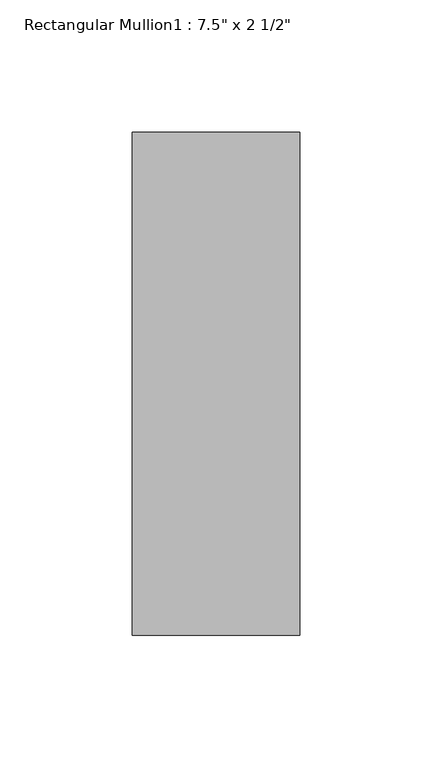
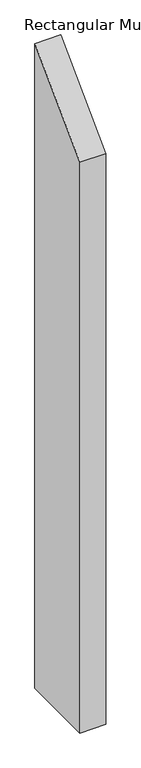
"""IFC4 building model written with IfcOpenShell, lengths in millimetres: member geometry."""

import ifcopenshell
import ifcopenshell.guid

model = None  # the IFC model being written
_history = None  # IfcOwnerHistory: only IFC2X3 demands one
_inside = {}  # id of a spatial element -> (the spatial element, [elements in it])
_under = {}  # id of a project, library or spatial element -> (it, [spatial elements below it])
_declared = {}  # id of a project -> (the project, [libraries it declares])
_typed = {}  # id of a type object -> (the type object, [elements of that type])
_made_of = {}  # id of a material, layer set ... -> (it, [elements and type objects made of it])


def new_model(schema):
    """Start an empty IFC model of exactly this schema.

    Asked for "IFC4X3", IfcOpenShell would pick the latest addendum, in which some entities
    have other attributes; the version numbers below select the first issue.
    IFC2X3 requires an IfcOwnerHistory on every rooted entity: one is made here for all.
    """
    global model, _history
    if schema == "IFC4X3":
        model = ifcopenshell.file(schema_version=(4, 3, 0, 0))
    else:
        model = ifcopenshell.file(schema=schema)
    _inside.clear()
    _under.clear()
    _declared.clear()
    _typed.clear()
    _made_of.clear()
    _history = None
    if model.schema == "IFC2X3":
        org = make("IfcOrganization", Name="unknown")
        user = make(
            "IfcPersonAndOrganization",
            ThePerson=make("IfcPerson", FamilyName="unknown"),
            TheOrganization=org,
        )
        app = make(
            "IfcApplication",
            ApplicationDeveloper=org,
            Version="unknown",
            ApplicationFullName="unknown",
            ApplicationIdentifier="unknown",
        )
        _history = make(
            "IfcOwnerHistory",
            OwningUser=user,
            OwningApplication=app,
            ChangeAction="ADDED",
            CreationDate=0,
        )
    return model


def make(cls, **values):
    """One entity of the class cls with the attributes given. An attribute that is None is left unset."""
    return model.create_entity(
        cls, **{name: value for name, value in values.items() if value is not None}
    )


def rooted(cls, **values):
    """An entity with a GlobalId (a new one), such as an element, a storey or a relation."""
    return make(cls, GlobalId=ifcopenshell.guid.new(), OwnerHistory=_history, **values)


def si_unit(unit_type, name, prefix=None):
    """IfcSIUnit, for example si_unit("LENGTHUNIT", "METRE", prefix="MILLI")."""
    return make("IfcSIUnit", UnitType=unit_type, Prefix=prefix, Name=name)


def assignment(units):
    """IfcUnitAssignment: the units of a project."""
    return None if units is None else make("IfcUnitAssignment", Units=units)


def point(xyz):
    """IfcCartesianPoint."""
    return None if xyz is None else make("IfcCartesianPoint", Coordinates=xyz)


def direction(xyz):
    """IfcDirection."""
    return None if xyz is None else make("IfcDirection", DirectionRatios=xyz)


def frame(location, z_axis=None, x_axis=None):
    """IfcAxis2Placement3D, a coordinate frame: its origin and axes. An axis left out is left unset."""
    return make(
        "IfcAxis2Placement3D",
        Location=point(location),
        Axis=direction(z_axis),
        RefDirection=direction(x_axis),
    )


def origin():
    """The frame at (0, 0, 0) with its axes left unset."""
    return frame((0.0, 0.0, 0.0))


def place(relative_to, where):
    """IfcLocalPlacement: puts the frame where relative to a parent placement (None: the world)."""
    return make(
        "IfcLocalPlacement", PlacementRelTo=relative_to, RelativePlacement=where
    )


def context(
    kind, dimensions, precision=None, world=None, true_north=None, identifier=None
):
    """IfcGeometricRepresentationContext, for example the 3D "Model" context."""
    return make(
        "IfcGeometricRepresentationContext",
        ContextIdentifier=identifier,
        ContextType=kind,
        CoordinateSpaceDimension=dimensions,
        Precision=precision,
        WorldCoordinateSystem=world,
        TrueNorth=true_north,
    )


def project(units=None, contexts=None):
    """IfcProject with its units and contexts."""
    return rooted(
        "IfcProject",
        Name="project",
        RepresentationContexts=contexts,
        UnitsInContext=assignment(units),
    )


def spatial(cls, under=None, at=None, **own):
    """A site, building, storey or space (cls), placed at a placement, below another one or the project."""
    s = rooted(cls, ObjectPlacement=at, **own)
    if under is not None:
        _under.setdefault(under.id(), (under, []))[1].append(s)
    return s


def polyline(points):
    """IfcPolyline through the points."""
    return make("IfcPolyline", Points=[point(p) for p in points])


def outline(outer, holes=None, kind="AREA"):
    """IfcArbitraryClosedProfileDef: a profile drawn as a closed curve; with holes, ...WithVoids."""
    if holes is None:
        return make("IfcArbitraryClosedProfileDef", ProfileType=kind, OuterCurve=outer)
    return make(
        "IfcArbitraryProfileDefWithVoids",
        ProfileType=kind,
        OuterCurve=outer,
        InnerCurves=holes,
    )


def extrude(swept, where, along, depth):
    """IfcExtrudedAreaSolid: the profile swept, set in the frame where, extruded along a direction by depth."""
    return make(
        "IfcExtrudedAreaSolid",
        SweptArea=swept,
        Position=where,
        ExtrudedDirection=direction(along),
        Depth=depth,
    )


def shape(context_of_items, identifier, shape_type, items):
    """IfcShapeRepresentation: the items that make up one representation, for example the "Body"."""
    return make(
        "IfcShapeRepresentation",
        ContextOfItems=context_of_items,
        RepresentationIdentifier=identifier,
        RepresentationType=shape_type,
        Items=items,
    )


def source(mapping_origin, context_of_items, identifier, shape_type, items):
    """IfcRepresentationMap: a shape defined once, which mapped items show again and again."""
    return make(
        "IfcRepresentationMap",
        MappingOrigin=mapping_origin,
        MappedRepresentation=shape(context_of_items, identifier, shape_type, items),
    )


def transform(
    local_origin,
    x_axis=None,
    y_axis=None,
    z_axis=None,
    scale=None,
    scale2=None,
    scale3=None,
    uniform=True,
):
    """IfcCartesianTransformationOperator3D, or its non-uniform kind. x_axis, y_axis, z_axis: its Axis1, 2, 3."""
    if uniform:
        return make(
            "IfcCartesianTransformationOperator3D",
            Axis1=direction(x_axis),
            Axis2=direction(y_axis),
            LocalOrigin=point(local_origin),
            Scale=scale,
            Axis3=direction(z_axis),
        )
    return make(
        "IfcCartesianTransformationOperator3DnonUniform",
        Axis1=direction(x_axis),
        Axis2=direction(y_axis),
        LocalOrigin=point(local_origin),
        Scale=scale,
        Axis3=direction(z_axis),
        Scale2=scale2,
        Scale3=scale3,
    )


def mapped(mapping_source, mapping_target):
    """IfcMappedItem: shows the shape of a source again, moved by a transform."""
    return make(
        "IfcMappedItem", MappingSource=mapping_source, MappingTarget=mapping_target
    )


def made_of(thing, what):
    """Note that an element or type object is made of a material, layer set ...; save() writes the relation."""
    if what is not None:
        _made_of.setdefault(what.id(), (what, []))[1].append(thing)
    return thing


def element(
    cls,
    number,
    at=None,
    inside=None,
    cuts=None,
    type_object=None,
    material=None,
    context=None,
    identifier="Body",
    shape_type=None,
    held_by="IfcProductDefinitionShape",
    body=None,
    shapes=None,
    **own,
):
    """One element of the class cls, such as IfcWall. Its Tag is "e" and its number.

    at: its placement. inside: the storey or other place that contains it. cuts: it is an
    opening in that element (IfcRelVoidsElement). A single representation is given by context,
    identifier, shape_type and body (its items); several are given by shapes. held_by: the class
    of the entity that holds the representations. save() writes the other relations.
    """
    e = rooted(cls, Tag="e%d" % number, ObjectPlacement=at, **own)
    if body is not None:
        shapes = [shape(context, identifier, shape_type, body)]
    if shapes is not None:
        e.Representation = make(held_by, Representations=shapes)
    if inside is not None:
        _inside.setdefault(inside.id(), (inside, []))[1].append(e)
    if cuts is not None:
        rooted(
            "IfcRelVoidsElement", RelatingBuildingElement=cuts, RelatedOpeningElement=e
        )
    if type_object is not None:
        _typed.setdefault(type_object.id(), (type_object, []))[1].append(e)
    return made_of(e, material)


def aggregate(whole, parts):
    """IfcRelAggregates: a whole, such as a stair, and the parts it consists of."""
    return rooted("IfcRelAggregates", RelatingObject=whole, RelatedObjects=parts)


def save(model, path):
    """Write the relations noted so far, then the file.

    IfcRelAggregates (storeys below a building ...), IfcRelContainedInSpatialStructure (elements
    in a storey), IfcRelDefinesByType, IfcRelAssociatesMaterial and IfcRelDeclares: one each for
    every whole, place, type object, material and project.
    """
    for whole, parts in _under.values():
        aggregate(whole, parts)
    for where, things in _inside.values():
        rooted(
            "IfcRelContainedInSpatialStructure",
            RelatedElements=things,
            RelatingStructure=where,
        )
    for kind, things in _typed.values():
        rooted("IfcRelDefinesByType", RelatedObjects=things, RelatingType=kind)
    for what, things in _made_of.values():
        rooted("IfcRelAssociatesMaterial", RelatedObjects=things, RelatingMaterial=what)
    for by, libraries in _declared.values():
        rooted("IfcRelDeclares", RelatingContext=by, RelatedDefinitions=libraries)
    model.write(path)


def member_4c6ee2a7(model_context):
    return source(origin(), model_context, "Body", "SweptSolid", [
        extrude(outline(polyline([(-165.1, -165.1), (25.4, 25.4), (25.4, -1638.3), (-165.1, -1638.3), (-165.1, -165.1)])), frame((-31.75, 0.0, 0.0), z_axis=(1.0, 0.0, 0.0), x_axis=(0.0, 1.0, 0.0)), (0.0, 0.0, 1.0), 63.5),
    ])


if __name__ == "__main__":
    model = new_model("IFC4")
    model_context = context("Model", 3, world=origin())
    ifc_project = project(units=[si_unit("LENGTHUNIT", "METRE", prefix="MILLI")], contexts=[model_context])
    site = spatial("IfcSite", under=ifc_project)
    building = spatial("IfcBuilding", under=site)
    placement = place(None, origin())
    member_shape = member_4c6ee2a7(model_context)
    element("IfcMember", 1, ObjectType="Rectangular Mullion1 : 7.5\" x 2 1/2\"", at=placement, inside=building, context=model_context, shape_type="MappedRepresentation", body=[
        mapped(member_shape, transform((0.0, 0.0, 0.0), x_axis=(1.0, 0.0, 0.0), y_axis=(0.0, 1.0, 0.0), z_axis=(0.0, 0.0, 1.0))),
    ])
    save(model, "model.ifc")
